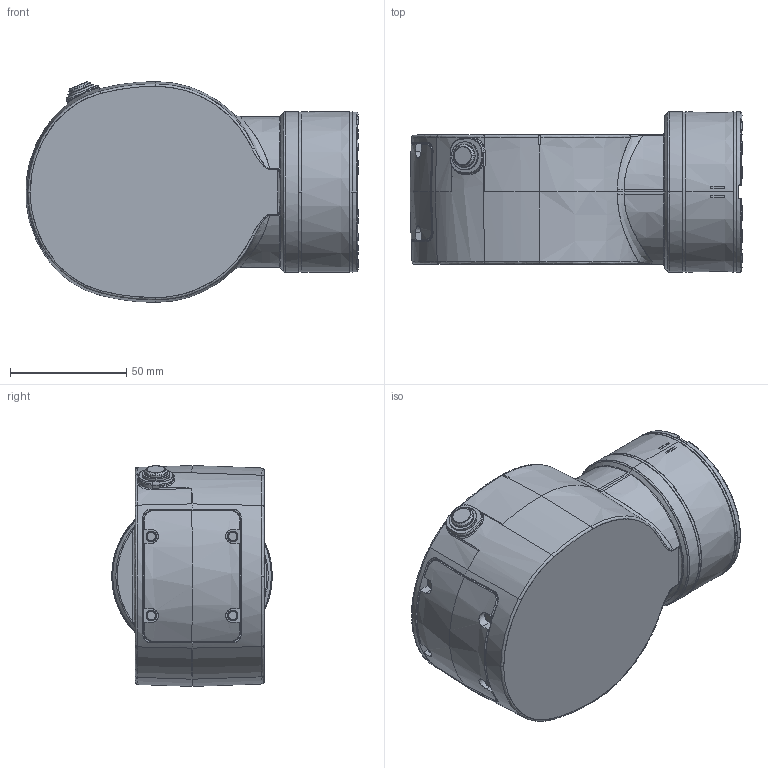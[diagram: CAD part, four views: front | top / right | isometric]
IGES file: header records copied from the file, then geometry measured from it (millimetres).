
Start section: SolidWorks IGES file using analytic representation for surfaces
Global section: file name: C:\Users\CNSHAN\Desktop\IRB1200H Light Weight Model\IRB1200H_7-70_IRC5_rev0_joints\IRB1200H_7-705-90_IRC5_Link5_rev0.igs; native system: SolidWorks 2020; preprocessor: SolidWorks 2020; author: CNSHAN; date: 220117.163533; units: millimetre
Bounding box: 142.81 x 69 x 95 mm (x, y, z)
Surface area: 46200 mm2 (no closed solid volume)
Topology: 0 solids, 0 shells, 293 faces, 3060 edges, 3055 vertices
Faces by surface type: bspline 194, revolution 99
